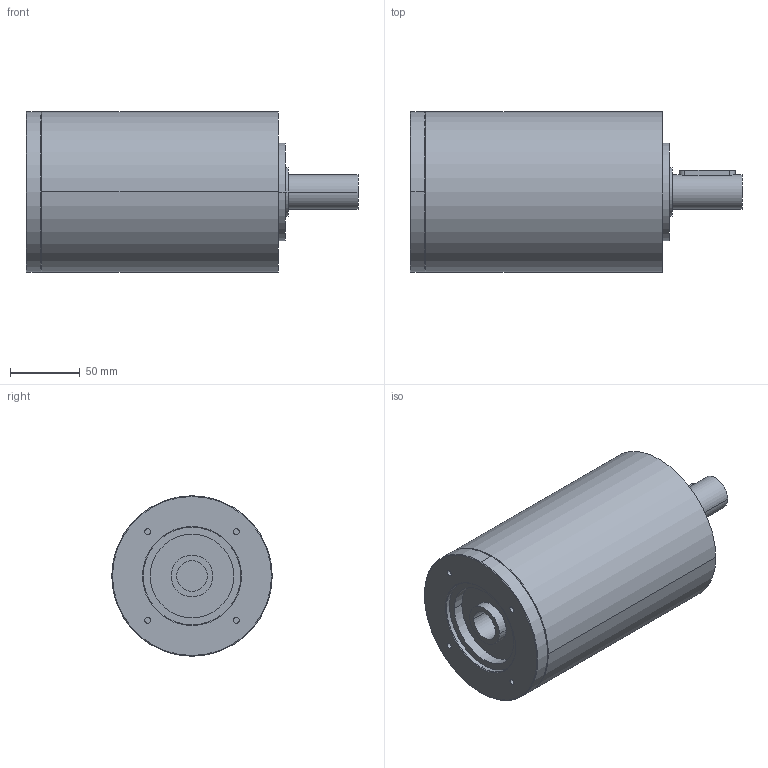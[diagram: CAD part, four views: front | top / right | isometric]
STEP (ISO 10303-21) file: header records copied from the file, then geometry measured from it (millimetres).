
FILE_DESCRIPTION(('CoCreate Modeling STEP Export'),'2;1');
FILE_NAME('GPR125_ig-9-12-16-20-28-35_25_B14_22_P15.stp','2014-08-26T14:11:04',(''),(''),'CoCreate Modeling STEP processor for AP214 (Solid Model)','CoCreate Modeling 16.00C 25-Feb-2009 (C) Parametric Technology GmbH','');
FILE_SCHEMA(('AUTOMOTIVE_DESIGN { 1 0 10303 214 1 1 1 1 }'));
Length unit declared in the file: millimetre
Products named in the file (2): GPR125_ig-9-12-16-20-28-35_25_B14_22_P15
Assembly tree (1 placements, depth 2):
  GPR125_ig-9-12-16-20-28-35_25_B14_22_P15
    GPR125_ig-9-12-16-20-28-35_25_B14_22_P15
Bounding box: 238 x 115 x 115 mm (x, y, z)
Volume: 1869787.1 mm3; surface area: 101683.8 mm2
Topology: 1 solids, 1 shells, 69 faces, 180 edges, 128 vertices
Faces by surface type: cylinder 38, plane 21, cone 10
Entity records: 1790 total; most frequent: ORIENTED_EDGE 356, CARTESIAN_POINT 336, DIRECTION 226, EDGE_CURVE 178, VERTEX_POINT 128, AXIS2_PLACEMENT_3D 86, EDGE_LOOP 86, FACE_OUTER_BOUND 69
